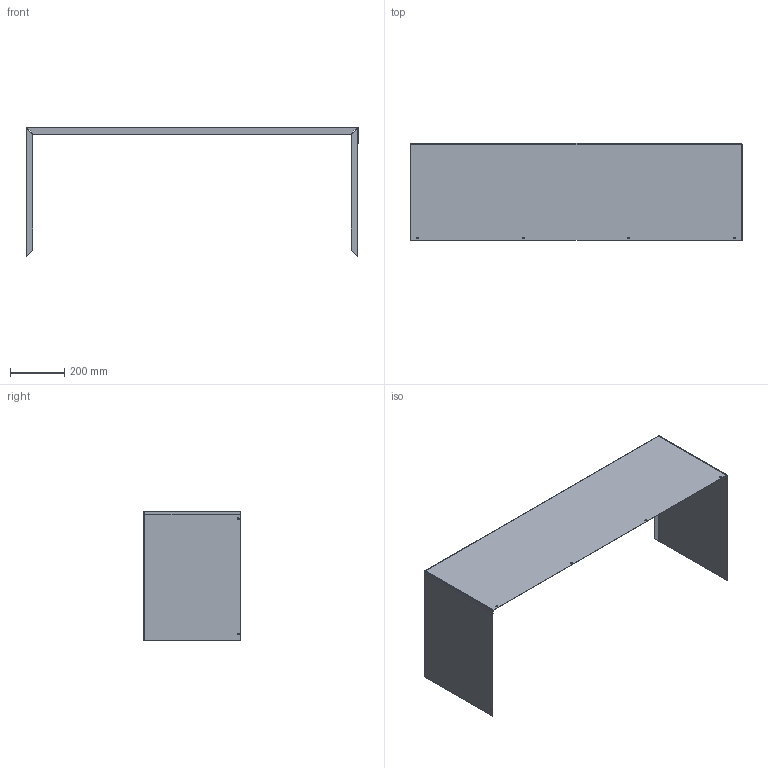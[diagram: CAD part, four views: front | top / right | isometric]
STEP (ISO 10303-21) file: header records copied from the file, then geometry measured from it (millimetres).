
FILE_DESCRIPTION (( 'STEP AP214' ), '1' );
FILE_NAME ('QPBX48-9.STEP', '2016-07-28T13:28:58', ( 'BMC' ), ( 'Bard Manufacturing Co., Inc.' ), 'SwSTEP 2.0', 'SolidWorks 2016', '' );
FILE_SCHEMA (( 'AUTOMOTIVE_DESIGN' ));
Length unit declared in the file: inch
Products named in the file (3): QPBX48-9; 104-1059; 104-1057
Assembly tree (3 placements, depth 2):
  QPBX48-9
    104-1059
    104-1057  x2
Bounding box: 1219.54 x 355.6 x 476.02 mm (x, y, z)
Volume: 798899.1 mm3; surface area: 1661906.3 mm2
Topology: 3 solids, 3 shells, 88 faces, 206 edges, 124 vertices
Faces by surface type: plane 58, cylinder 26, bspline 4
Entity records: 2094 total; most frequent: CARTESIAN_POINT 382, DIRECTION 336, ORIENTED_EDGE 320, EDGE_CURVE 160, LINE 112, AXIS2_PLACEMENT_3D 112, VECTOR 112, VERTEX_POINT 96
